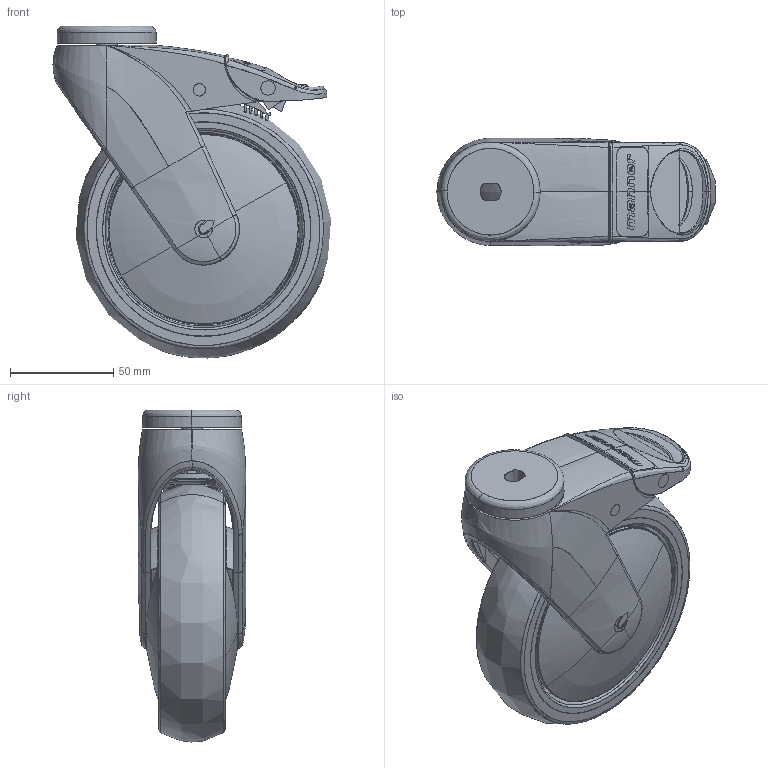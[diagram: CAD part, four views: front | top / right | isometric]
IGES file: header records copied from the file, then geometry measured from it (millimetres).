
Start section: SolidWorks IGES file using analytic representation for surfaces
Global section: file name: S:\Tyokansio\VL\301672_IGES.IGS; native system: SolidWorks 2011; preprocessor: SolidWorks 2011; author: VilleLa; date: 110610.103027; units: millimetre
Bounding box: 134.8 x 52 x 160.91 mm (x, y, z)
Surface area: 113076.9 mm2 (no closed solid volume)
Topology: 0 solids, 0 shells, 588 faces, 10475 edges, 10458 vertices
Faces by surface type: bspline 476, revolution 112
